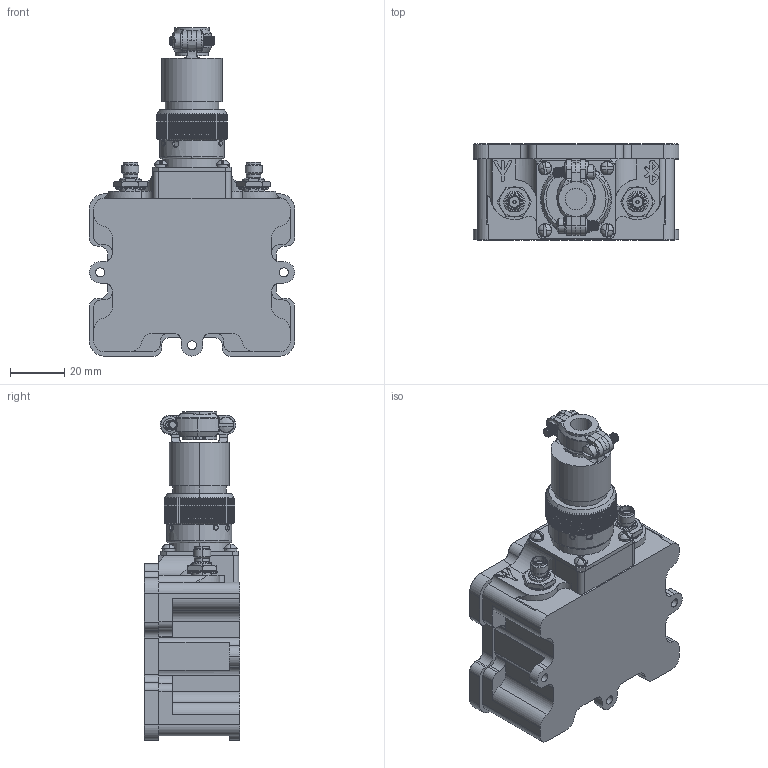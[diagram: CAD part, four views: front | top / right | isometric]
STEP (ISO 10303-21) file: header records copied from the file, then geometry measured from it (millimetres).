
FILE_DESCRIPTION (( 'STEP AP214' ), '1' );
FILE_NAME ('UV01.431329.100.311 WWW 岭铌 镳桢爨-镥疱溧麒 溧眄 扈龛.STEP', '2017-03-06T10:48:44', ( '' ), ( '' ), 'SwSTEP 2.0', 'SolidWorks 2017', '' );
FILE_SCHEMA (( 'AUTOMOTIVE_DESIGN' ));
Length unit declared in the file: millimetre
Products named in the file (1): UV01.431329.100.311 WWW 岭铌 镳桢爨-镥疱溧麒 溧眄 扈龛
Bounding box: 76.1 x 35.5 x 121.57 mm (x, y, z)
Volume: 160299.6 mm3; surface area: 28128.1 mm2
Topology: 10 solids, 10 shells, 1520 faces, 4145 edges, 2697 vertices
Faces by surface type: cylinder 611, plane 611, bspline 170, cone 120, sphere 8
Entity records: 86315 total; most frequent: CARTESIAN_POINT 33141, ORIENTED_EDGE 8286, DIRECTION 6834, EDGE_CURVE 4143, VERTEX_POINT 2697, AXIS2_PLACEMENT_3D 2590, VECTOR 1654, LINE 1654
